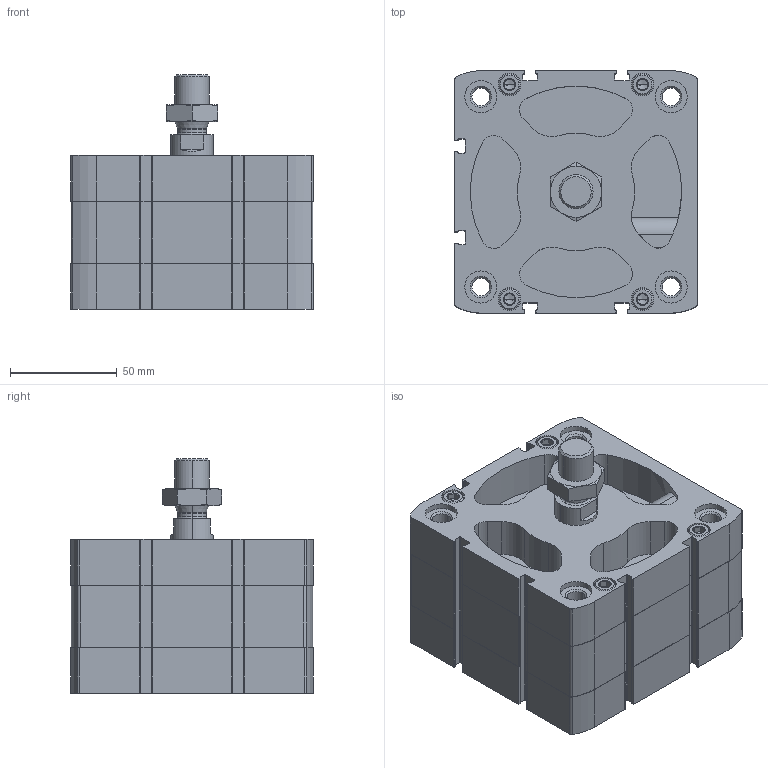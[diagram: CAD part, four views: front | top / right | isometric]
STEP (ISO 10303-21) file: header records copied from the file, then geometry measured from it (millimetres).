
FILE_DESCRIPTION (( 'STEP AP203' ), '1' );
FILE_NAME ('CCN100-5M.STEP', '2020-06-05T18:05:22', ( '' ), ( '' ), 'SwSTEP 2.0', 'SolidWorks 2019', '' );
FILE_SCHEMA (( 'CONFIG_CONTROL_DESIGN' ));
Length unit declared in the file: millimetre
Products named in the file (1): CCN100-5M
Bounding box: 113.5 x 113.5 x 109.8 mm (x, y, z)
Volume: 715460.3 mm3; surface area: 148586.7 mm2
Topology: 3 solids, 3 shells, 648 faces, 1673 edges, 1068 vertices
Faces by surface type: plane 292, cylinder 272, cone 80, torus 4
Entity records: 21246 total; most frequent: CARTESIAN_POINT 4984, DIRECTION 3541, ORIENTED_EDGE 3314, EDGE_CURVE 1657, AXIS2_PLACEMENT_3D 1319, VERTEX_POINT 1068, VECTOR 903, LINE 903
